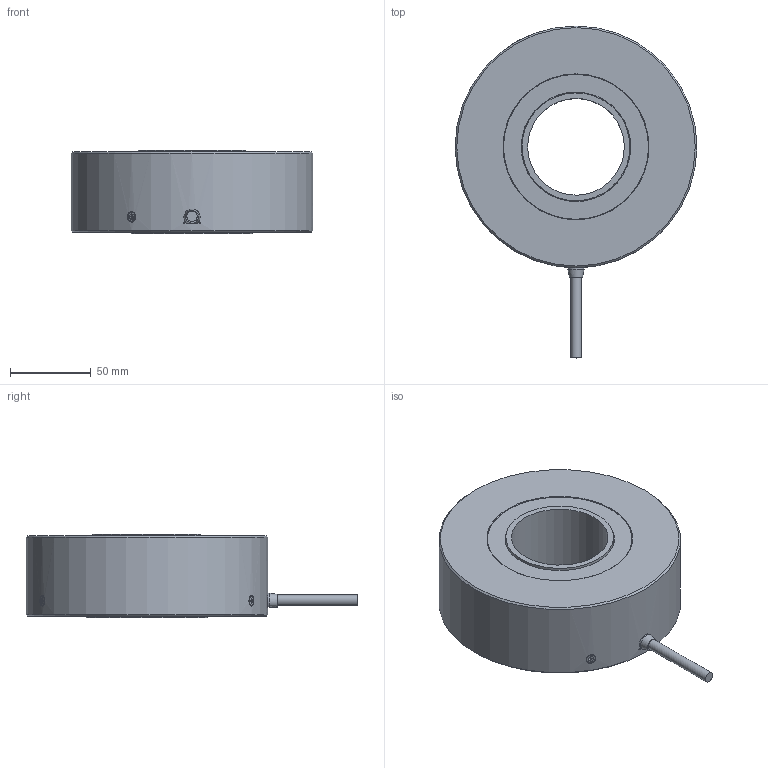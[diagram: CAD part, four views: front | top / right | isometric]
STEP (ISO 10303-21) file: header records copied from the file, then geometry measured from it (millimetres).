
FILE_DESCRIPTION(('STEP AP242'),'1');
FILE_NAME(').stp','2022-06-20T07:28:05',(' '),(' '),'Spatial InterOp 3D',' ',' ');
FILE_SCHEMA(('AP242_MANAGED_MODEL_BASED_3D_ENGINEERING_MIM_LF {1 0 10303 442 1 1 4}'));
Length unit declared in the file: millimetre
Products named in the file (5): L07H09A MEH-130-＊＊＊P□(4500P以上); オイルシール 68×90×7; 7ツイン14シンケーブル AWG26; サラコネジ M3x7 SUS
Assembly tree (6 placements, depth 2):
  L07H09A MEH-130-＊＊＊P□(4500P以上)
    L07H09A MEH-130-＊＊＊P□(4500P以上)
    オイルシール 68×90×7
    7ツイン14シンケーブル AWG26
    サラコネジ M3x7 SUS  x3
Bounding box: 150 x 206 x 52 mm (x, y, z)
Volume: 745432 mm3; surface area: 77686.4 mm2
Topology: 6 solids, 6 shells, 121 faces, 280 edges, 182 vertices
Faces by surface type: plane 73, cylinder 33, cone 14, bspline 1
Full cylindrical faces by diameter (mm): 2.5 x8, 3 x3, 3.5 x3, 5.5 x3, 6.5 x1, 60 x1, 66.95 x1, 68 x2, 75.5 x1, 90 x2, 150 x1
Entity records: 3541 total; most frequent: CARTESIAN_POINT 870, DIRECTION 369, ORIENTED_EDGE 284, AXIS2_PLACEMENT_3D 147, EDGE_CURVE 142, EDGE_LOOP 134, VERTEX_POINT 114, FACE_OUTER_BOUND 108
